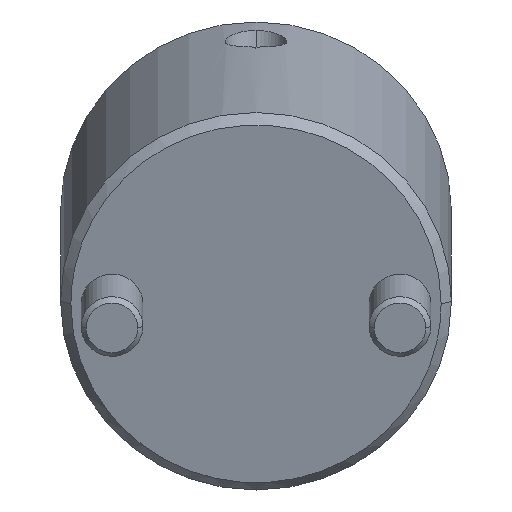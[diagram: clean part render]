
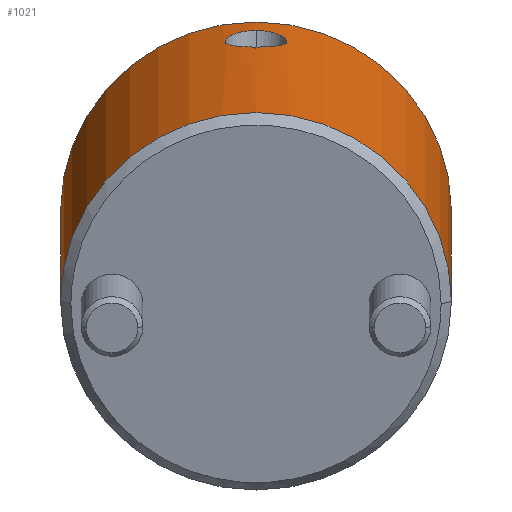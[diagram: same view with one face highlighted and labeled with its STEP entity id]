
A CAD part, front view. The second image highlights one B-rep face of the part: STEP entity #1021.
In plain terms, the highlighted cylindrical face has radius 19 mm (diameter 38 mm), a partial arc.
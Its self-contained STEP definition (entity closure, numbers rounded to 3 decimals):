
#760=CARTESIAN_POINT('Vertex',(0.,19.,1.)) ;
#763=CARTESIAN_POINT('Axis2P3D Location',(0.,0.,1.)) ;
#767=CARTESIAN_POINT('Vertex',(0.,-19.,1.)) ;
#919=CARTESIAN_POINT('Axis2P3D Location',(0.,0.,-1.8)) ;
#924=CARTESIAN_POINT('Line Origine',(0.,19.,-1.8)) ;
#928=CARTESIAN_POINT('Vertex',(0.,19.,35.)) ;
#931=CARTESIAN_POINT('Axis2P3D Location',(0.,0.,35.)) ;
#935=CARTESIAN_POINT('Vertex',(0.,-19.,35.)) ;
#938=CARTESIAN_POINT('Line Origine',(0.,-19.,-1.8)) ;
#950=CARTESIAN_POINT('Control Point',(19.,0.,31.81)) ;
#951=CARTESIAN_POINT('Control Point',(19.,0.081,31.81)) ;
#952=CARTESIAN_POINT('Control Point',(19.,0.161,31.807)) ;
#953=CARTESIAN_POINT('Control Point',(18.999,0.242,31.801)) ;
#954=CARTESIAN_POINT('Control Point',(18.995,0.484,31.775)) ;
#955=CARTESIAN_POINT('Control Point',(18.987,0.724,31.722)) ;
#956=CARTESIAN_POINT('Control Point',(18.98,0.886,31.673)) ;
#957=CARTESIAN_POINT('Control Point',(18.964,1.197,31.555)) ;
#958=CARTESIAN_POINT('Control Point',(18.943,1.487,31.395)) ;
#959=CARTESIAN_POINT('Control Point',(18.931,1.628,31.302)) ;
#960=CARTESIAN_POINT('Control Point',(18.9,1.968,31.046)) ;
#961=CARTESIAN_POINT('Control Point',(18.866,2.263,30.733)) ;
#962=CARTESIAN_POINT('Control Point',(18.846,2.422,30.523)) ;
#963=CARTESIAN_POINT('Control Point',(18.808,2.698,30.073)) ;
#964=CARTESIAN_POINT('Control Point',(18.781,2.88,29.574)) ;
#965=CARTESIAN_POINT('Control Point',(18.77,2.946,29.312)) ;
#966=CARTESIAN_POINT('Control Point',(18.76,3.011,28.876)) ;
#967=CARTESIAN_POINT('Control Point',(18.762,3.001,28.44)) ;
#968=CARTESIAN_POINT('Control Point',(18.764,2.985,28.267)) ;
#969=CARTESIAN_POINT('Control Point',(18.775,2.917,27.841)) ;
#970=CARTESIAN_POINT('Control Point',(18.796,2.779,27.436)) ;
#971=CARTESIAN_POINT('Control Point',(18.812,2.67,27.204)) ;
#972=CARTESIAN_POINT('Control Point',(18.854,2.364,26.692)) ;
#973=CARTESIAN_POINT('Control Point',(18.903,1.944,26.275)) ;
#974=CARTESIAN_POINT('Control Point',(18.93,1.671,26.07)) ;
#975=CARTESIAN_POINT('Control Point',(18.968,1.183,25.804)) ;
#976=CARTESIAN_POINT('Control Point',(18.991,0.644,25.656)) ;
#977=CARTESIAN_POINT('Control Point',(18.997,0.43,25.617)) ;
#978=CARTESIAN_POINT('Control Point',(19.,0.216,25.598)) ;
#979=CARTESIAN_POINT('Control Point',(19.,0.,25.598)) ;
#980=CARTESIAN_POINT('Vertex',(19.,0.,31.81)) ;
#982=CARTESIAN_POINT('Vertex',(19.,0.,25.598)) ;
#986=CARTESIAN_POINT('Control Point',(19.,0.,25.598)) ;
#987=CARTESIAN_POINT('Control Point',(19.,-0.084,25.598)) ;
#988=CARTESIAN_POINT('Control Point',(19.,-0.168,25.601)) ;
#989=CARTESIAN_POINT('Control Point',(18.999,-0.251,25.607)) ;
#990=CARTESIAN_POINT('Control Point',(18.994,-0.501,25.633)) ;
#991=CARTESIAN_POINT('Control Point',(18.986,-0.748,25.686)) ;
#992=CARTESIAN_POINT('Control Point',(18.979,-0.914,25.733)) ;
#993=CARTESIAN_POINT('Control Point',(18.962,-1.232,25.849)) ;
#994=CARTESIAN_POINT('Control Point',(18.939,-1.529,26.007)) ;
#995=CARTESIAN_POINT('Control Point',(18.927,-1.672,26.097)) ;
#996=CARTESIAN_POINT('Control Point',(18.895,-2.012,26.346)) ;
#997=CARTESIAN_POINT('Control Point',(18.861,-2.304,26.651)) ;
#998=CARTESIAN_POINT('Control Point',(18.841,-2.458,26.853)) ;
#999=CARTESIAN_POINT('Control Point',(18.804,-2.725,27.289)) ;
#1000=CARTESIAN_POINT('Control Point',(18.778,-2.896,27.771)) ;
#1001=CARTESIAN_POINT('Control Point',(18.769,-2.956,28.026)) ;
#1002=CARTESIAN_POINT('Control Point',(18.758,-3.025,28.544)) ;
#1003=CARTESIAN_POINT('Control Point',(18.764,-2.988,29.068)) ;
#1004=CARTESIAN_POINT('Control Point',(18.771,-2.942,29.332)) ;
#1005=CARTESIAN_POINT('Control Point',(18.79,-2.822,29.759)) ;
#1006=CARTESIAN_POINT('Control Point',(18.817,-2.634,30.157)) ;
#1007=CARTESIAN_POINT('Control Point',(18.829,-2.547,30.312)) ;
#1008=CARTESIAN_POINT('Control Point',(18.86,-2.309,30.68)) ;
#1009=CARTESIAN_POINT('Control Point',(18.894,-2.017,30.997)) ;
#1010=CARTESIAN_POINT('Control Point',(18.914,-1.822,31.168)) ;
#1011=CARTESIAN_POINT('Control Point',(18.954,-1.376,31.487)) ;
#1012=CARTESIAN_POINT('Control Point',(18.983,-0.869,31.695)) ;
#1013=CARTESIAN_POINT('Control Point',(18.994,-0.578,31.773)) ;
#1014=CARTESIAN_POINT('Control Point',(19.,-0.291,31.81)) ;
#1015=CARTESIAN_POINT('Control Point',(19.,0.,31.81)) ;
#764=DIRECTION('Axis2P3D Direction',(0.,0.,1.)) ;
#920=DIRECTION('Axis2P3D Direction',(0.,-0.,1.)) ;
#921=DIRECTION('Axis2P3D XDirection',(0.,-1.,0.)) ;
#925=DIRECTION('Vector Direction',(0.,0.,1.)) ;
#932=DIRECTION('Axis2P3D Direction',(0.,-0.,1.)) ;
#939=DIRECTION('Vector Direction',(0.,0.,1.)) ;
#765=AXIS2_PLACEMENT_3D('Circle Axis2P3D',#763,#764,$) ;
#922=AXIS2_PLACEMENT_3D('Cylinder Axis2P3D',#919,#920,#921) ;
#933=AXIS2_PLACEMENT_3D('Circle Axis2P3D',#931,#932,$) ;
#944=ORIENTED_EDGE('',*,*,#930,.F.) ;
#945=ORIENTED_EDGE('',*,*,#937,.T.) ;
#946=ORIENTED_EDGE('',*,*,#942,.T.) ;
#947=ORIENTED_EDGE('',*,*,#769,.F.) ;
#1018=ORIENTED_EDGE('',*,*,#984,.T.) ;
#1019=ORIENTED_EDGE('',*,*,#1016,.T.) ;
#1020=FACE_BOUND('',#1017,.T.) ;
#926=VECTOR('Line Direction',#925,1.) ;
#940=VECTOR('Line Direction',#939,1.) ;
#1021=ADVANCED_FACE('MANIFOLD_SOLID_BREP #1118',(#948,#1020),#923,.T.) ;
#949=B_SPLINE_CURVE_WITH_KNOTS('',5,(#950,#951,#952,#953,#954,#955,#956,#957,#958,#959,#960,#961,#962,#963,#964,#965,#966,#967,#968,#969,#970,#971,#972,#973,#974,#975,#976,#977,#978,#979),.UNSPECIFIED.,.F.,.U.,(6,3,3,3,3,3,3,3,3,6),(0.,0.582,1.76,2.967,4.812,6.638,7.845,9.65,12.048,13.588),.UNSPECIFIED.) ;
#985=B_SPLINE_CURVE_WITH_KNOTS('',5,(#986,#987,#988,#989,#990,#991,#992,#993,#994,#995,#996,#997,#998,#999,#1000,#1001,#1002,#1003,#1004,#1005,#1006,#1007,#1008,#1009,#1010,#1011,#1012,#1013,#1014,#1015),.UNSPECIFIED.,.F.,.U.,(6,3,3,3,3,3,3,3,3,6),(0.,0.601,1.805,3.01,4.817,6.623,8.448,9.673,11.498,13.589),.UNSPECIFIED.) ;
#766=CIRCLE('generated circle',#765,19.) ;
#934=CIRCLE('generated circle',#933,19.) ;
#923=CYLINDRICAL_SURFACE('generated cylinder',#922,19.) ;
#769=EDGE_CURVE('',#761,#768,#766,.F.) ;
#930=EDGE_CURVE('',#929,#761,#927,.F.) ;
#937=EDGE_CURVE('',#929,#936,#934,.F.) ;
#942=EDGE_CURVE('',#936,#768,#941,.F.) ;
#984=EDGE_CURVE('',#981,#983,#949,.T.) ;
#1016=EDGE_CURVE('',#983,#981,#985,.T.) ;
#943=EDGE_LOOP('',(#944,#945,#946,#947)) ;
#1017=EDGE_LOOP('',(#1018,#1019)) ;
#948=FACE_OUTER_BOUND('',#943,.T.) ;
#927=LINE('Line',#924,#926) ;
#941=LINE('Line',#938,#940) ;
#761=VERTEX_POINT('',#760) ;
#768=VERTEX_POINT('',#767) ;
#929=VERTEX_POINT('',#928) ;
#936=VERTEX_POINT('',#935) ;
#981=VERTEX_POINT('',#980) ;
#983=VERTEX_POINT('',#982) ;
